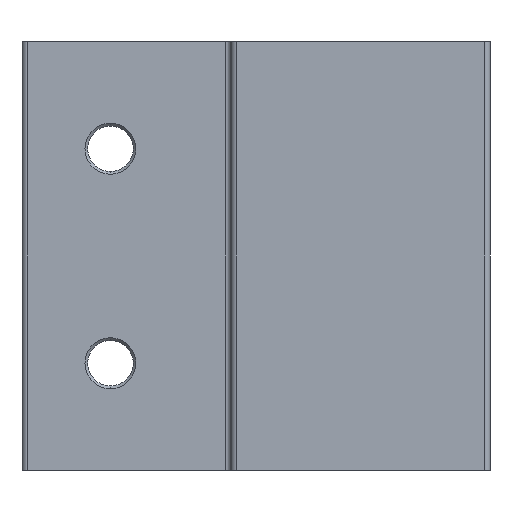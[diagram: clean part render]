
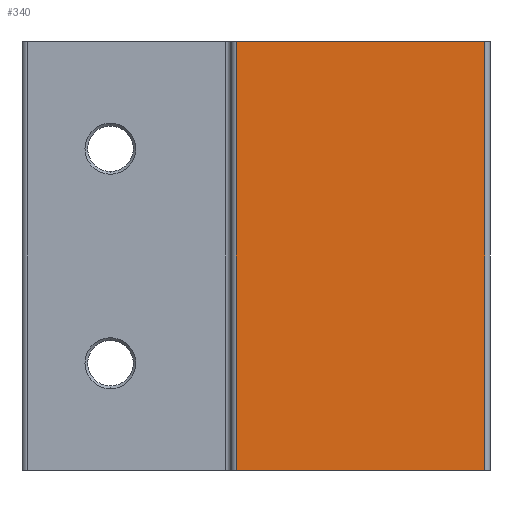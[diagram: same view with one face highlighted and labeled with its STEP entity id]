
A CAD part, left-side view. The second image highlights one B-rep face of the part: STEP entity #340.
In plain terms, the highlighted planar face has unit normal (-1, 0, 0).
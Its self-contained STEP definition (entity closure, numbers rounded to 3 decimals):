
#80 = ORIENTED_EDGE ( 'NONE', *, *, #437, .T. ) ;
#100 = ORIENTED_EDGE ( 'NONE', *, *, #810, .T. ) ;
#176 = CARTESIAN_POINT ( 'NONE',  ( -28.8, -18.5, 0. ) ) ;
#227 = ORIENTED_EDGE ( 'NONE', *, *, #236, .F. ) ;
#231 = CARTESIAN_POINT ( 'NONE',  ( -28.8, 27.8, 80. ) ) ;
#236 = EDGE_CURVE ( 'NONE', #526, #1221, #1406, .T. ) ;
#281 = VECTOR ( 'NONE', #1298, 1000. ) ;
#340 = ADVANCED_FACE ( 'NONE', ( #1425 ), #1685, .F. ) ;
#352 = VERTEX_POINT ( 'NONE', #1316 ) ;
#437 = EDGE_CURVE ( 'NONE', #526, #352, #913, .T. ) ;
#467 = VECTOR ( 'NONE', #527, 1000. ) ;
#477 = CARTESIAN_POINT ( 'NONE',  ( -28.8, -19.5, 0. ) ) ;
#501 = VECTOR ( 'NONE', #1140, 1000. ) ;
#526 = VERTEX_POINT ( 'NONE', #534 ) ;
#527 = DIRECTION ( 'NONE',  ( 0., 0., 1. ) ) ;
#534 = CARTESIAN_POINT ( 'NONE',  ( -28.8, 27.8, 80. ) ) ;
#603 = ORIENTED_EDGE ( 'NONE', *, *, #1468, .T. ) ;
#640 = EDGE_LOOP ( 'NONE', ( #227, #80, #603, #100 ) ) ;
#721 = DIRECTION ( 'NONE',  ( 0., 1., 0. ) ) ;
#810 = EDGE_CURVE ( 'NONE', #1050, #1221, #1341, .T. ) ;
#851 = CARTESIAN_POINT ( 'NONE',  ( -28.8, -18.5, 80. ) ) ;
#910 = LINE ( 'NONE', #477, #501 ) ;
#913 = LINE ( 'NONE', #231, #1665 ) ;
#1050 = VERTEX_POINT ( 'NONE', #176 ) ;
#1135 = AXIS2_PLACEMENT_3D ( 'NONE', #1545, #1710, #721 ) ;
#1140 = DIRECTION ( 'NONE',  ( 0., -1., 0. ) ) ;
#1221 = VERTEX_POINT ( 'NONE', #851 ) ;
#1282 = CARTESIAN_POINT ( 'NONE',  ( -28.8, 22.8, 80. ) ) ;
#1298 = DIRECTION ( 'NONE',  ( 0., -1., 0. ) ) ;
#1316 = CARTESIAN_POINT ( 'NONE',  ( -28.8, 27.8, 0. ) ) ;
#1341 = LINE ( 'NONE', #1764, #467 ) ;
#1406 = LINE ( 'NONE', #1282, #281 ) ;
#1425 = FACE_OUTER_BOUND ( 'NONE', #640, .T. ) ;
#1456 = DIRECTION ( 'NONE',  ( 0., 0., -1. ) ) ;
#1468 = EDGE_CURVE ( 'NONE', #352, #1050, #910, .T. ) ;
#1545 = CARTESIAN_POINT ( 'NONE',  ( -28.8, -19.5, 80. ) ) ;
#1665 = VECTOR ( 'NONE', #1456, 1000. ) ;
#1685 = PLANE ( 'NONE',  #1135 ) ;
#1710 = DIRECTION ( 'NONE',  ( 1., 0., 0. ) ) ;
#1764 = CARTESIAN_POINT ( 'NONE',  ( -28.8, -18.5, 80. ) ) ;
